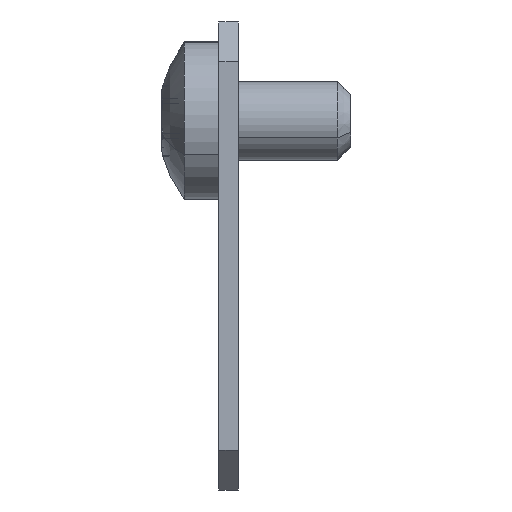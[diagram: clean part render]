
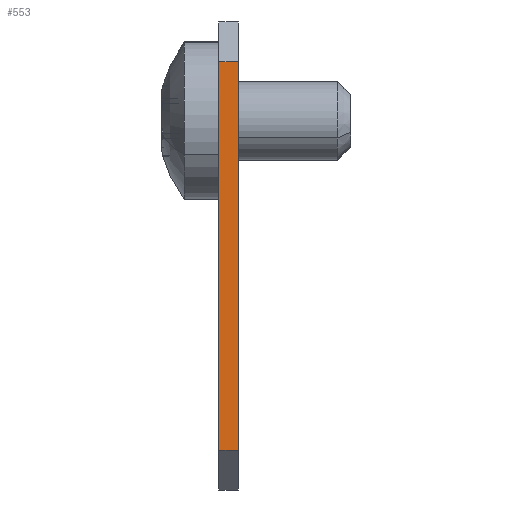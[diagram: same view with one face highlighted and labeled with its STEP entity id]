
A CAD part, front view. The second image highlights one B-rep face of the part: STEP entity #553.
In plain terms, the highlighted planar face has unit normal (0, -1, 0).
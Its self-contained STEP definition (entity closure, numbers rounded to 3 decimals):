
#19 = CARTESIAN_POINT ( 'NONE',  ( -1.648, -346.312, 16.21 ) ) ;
#30 = LINE ( 'NONE', #1459, #5966 ) ;
#413 = CARTESIAN_POINT ( 'NONE',  ( -1.648, -346.312, 19.21 ) ) ;
#474 = LINE ( 'NONE', #3569, #6452 ) ;
#553 = ADVANCED_FACE ( 'NONE', ( #5726 ), #3212, .T. ) ;
#638 = CARTESIAN_POINT ( 'NONE',  ( -1.648, -346.312, 19.21 ) ) ;
#957 = VERTEX_POINT ( 'NONE', #6343 ) ;
#1459 = CARTESIAN_POINT ( 'NONE',  ( -1.648, -346.312, 16.21 ) ) ;
#1546 = CARTESIAN_POINT ( 'NONE',  ( -0.148, -346.312, 19.21 ) ) ;
#1597 = ORIENTED_EDGE ( 'NONE', *, *, #5974, .T. ) ;
#1686 = VERTEX_POINT ( 'NONE', #6420 ) ;
#1840 = EDGE_CURVE ( 'NONE', #957, #2548, #30, .T. ) ;
#1939 = LINE ( 'NONE', #413, #3914 ) ;
#2473 = ORIENTED_EDGE ( 'NONE', *, *, #3726, .F. ) ;
#2524 = DIRECTION ( 'NONE',  ( -1., 0., 0. ) ) ;
#2548 = VERTEX_POINT ( 'NONE', #19 ) ;
#3212 = PLANE ( 'NONE',  #4609 ) ;
#3569 = CARTESIAN_POINT ( 'NONE',  ( -1.648, -346.312, -13.29 ) ) ;
#3689 = EDGE_LOOP ( 'NONE', ( #5543, #1597, #2473, #5009 ) ) ;
#3726 = EDGE_CURVE ( 'NONE', #957, #1686, #6568, .T. ) ;
#3914 = VECTOR ( 'NONE', #6523, 1000. ) ;
#4081 = DIRECTION ( 'NONE',  ( 0., 0., -1. ) ) ;
#4094 = EDGE_CURVE ( 'NONE', #2548, #4412, #1939, .T. ) ;
#4412 = VERTEX_POINT ( 'NONE', #5955 ) ;
#4609 = AXIS2_PLACEMENT_3D ( 'NONE', #638, #5232, #6190 ) ;
#5009 = ORIENTED_EDGE ( 'NONE', *, *, #1840, .T. ) ;
#5232 = DIRECTION ( 'NONE',  ( 0., -1., 0. ) ) ;
#5543 = ORIENTED_EDGE ( 'NONE', *, *, #4094, .T. ) ;
#5588 = DIRECTION ( 'NONE',  ( 1., 0., 0. ) ) ;
#5726 = FACE_OUTER_BOUND ( 'NONE', #3689, .T. ) ;
#5955 = CARTESIAN_POINT ( 'NONE',  ( -1.648, -346.312, -13.29 ) ) ;
#5966 = VECTOR ( 'NONE', #2524, 1000. ) ;
#5974 = EDGE_CURVE ( 'NONE', #4412, #1686, #474, .T. ) ;
#6190 = DIRECTION ( 'NONE',  ( 0., 0., -1. ) ) ;
#6235 = VECTOR ( 'NONE', #4081, 1000. ) ;
#6343 = CARTESIAN_POINT ( 'NONE',  ( -0.148, -346.312, 16.21 ) ) ;
#6420 = CARTESIAN_POINT ( 'NONE',  ( -0.148, -346.312, -13.29 ) ) ;
#6452 = VECTOR ( 'NONE', #5588, 1000. ) ;
#6523 = DIRECTION ( 'NONE',  ( 0., 0., -1. ) ) ;
#6568 = LINE ( 'NONE', #1546, #6235 ) ;
